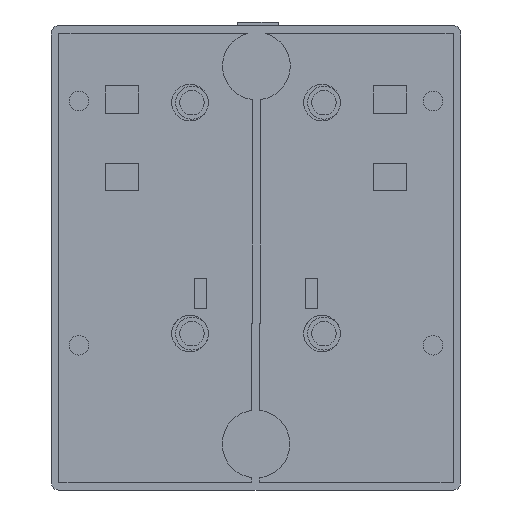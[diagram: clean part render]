
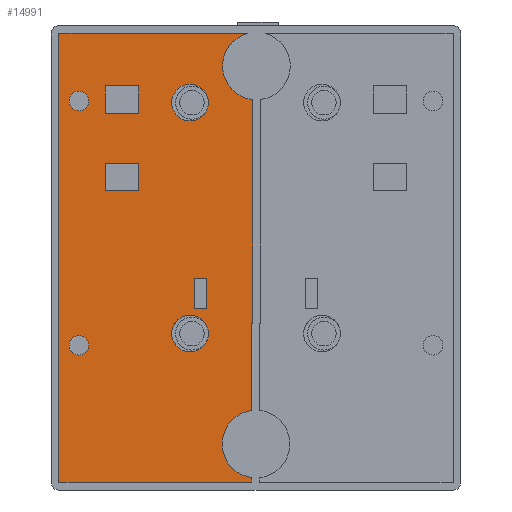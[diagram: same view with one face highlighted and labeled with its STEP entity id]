
A CAD part, front view. The second image highlights one B-rep face of the part: STEP entity #14991.
In plain terms, the highlighted planar face has unit normal (0, -1, 0).
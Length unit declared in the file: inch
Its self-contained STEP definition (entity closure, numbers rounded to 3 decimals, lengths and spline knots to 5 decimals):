
#769=FACE_BOUND('',#2130,.T.);
#770=FACE_BOUND('',#2131,.T.);
#771=FACE_BOUND('',#2132,.T.);
#772=FACE_BOUND('',#2133,.T.);
#773=FACE_BOUND('',#2134,.T.);
#774=FACE_BOUND('',#2135,.T.);
#775=FACE_BOUND('',#2136,.T.);
#863=CIRCLE('',#16020,0.15);
#865=CIRCLE('',#16023,0.15);
#867=CIRCLE('',#16025,0.15);
#868=CIRCLE('',#16027,0.277);
#869=CIRCLE('',#16028,0.277);
#870=CIRCLE('',#16029,0.08);
#871=CIRCLE('',#16030,0.08);
#1288=FACE_OUTER_BOUND('',#2129,.T.);
#2129=EDGE_LOOP('',(#9951,#9952,#9953,#9954,#9955,#9956,#9957,#9958,#9959));
#2130=EDGE_LOOP('',(#9960));
#2131=EDGE_LOOP('',(#9961,#9962,#9963,#9964));
#2132=EDGE_LOOP('',(#9965,#9966,#9967,#9968));
#2133=EDGE_LOOP('',(#9969,#9970,#9971,#9972));
#2134=EDGE_LOOP('',(#9973));
#2135=EDGE_LOOP('',(#9974));
#2136=EDGE_LOOP('',(#9975,#9976));
#3067=LINE('',#20801,#4629);
#3068=LINE('',#20803,#4630);
#3069=LINE('',#20807,#4631);
#3070=LINE('',#20809,#4632);
#3071=LINE('',#20811,#4633);
#3072=LINE('',#20813,#4634);
#3073=LINE('',#20816,#4635);
#3074=LINE('',#20819,#4636);
#3075=LINE('',#20821,#4637);
#3076=LINE('',#20823,#4638);
#3077=LINE('',#20824,#4639);
#3078=LINE('',#20827,#4640);
#3079=LINE('',#20829,#4641);
#3080=LINE('',#20831,#4642);
#3081=LINE('',#20832,#4643);
#3082=LINE('',#20835,#4644);
#3083=LINE('',#20837,#4645);
#3084=LINE('',#20839,#4646);
#3085=LINE('',#20840,#4647);
#4629=VECTOR('',#17109,0.3937);
#4630=VECTOR('',#17110,0.3937);
#4631=VECTOR('',#17113,0.3937);
#4632=VECTOR('',#17114,0.3937);
#4633=VECTOR('',#17115,0.3937);
#4634=VECTOR('',#17116,0.3937);
#4635=VECTOR('',#17119,0.3937);
#4636=VECTOR('',#17120,0.3937);
#4637=VECTOR('',#17121,0.3937);
#4638=VECTOR('',#17122,0.3937);
#4639=VECTOR('',#17123,0.3937);
#4640=VECTOR('',#17124,0.3937);
#4641=VECTOR('',#17125,0.3937);
#4642=VECTOR('',#17126,0.3937);
#4643=VECTOR('',#17127,0.3937);
#4644=VECTOR('',#17128,0.3937);
#4645=VECTOR('',#17129,0.3937);
#4646=VECTOR('',#17130,0.3937);
#4647=VECTOR('',#17131,0.3937);
#6189=VERTEX_POINT('',#20785);
#6191=VERTEX_POINT('',#20791);
#6192=VERTEX_POINT('',#20792);
#6194=VERTEX_POINT('',#20799);
#6195=VERTEX_POINT('',#20800);
#6196=VERTEX_POINT('',#20802);
#6197=VERTEX_POINT('',#20804);
#6198=VERTEX_POINT('',#20806);
#6199=VERTEX_POINT('',#20808);
#6200=VERTEX_POINT('',#20810);
#6201=VERTEX_POINT('',#20812);
#6202=VERTEX_POINT('',#20814);
#6203=VERTEX_POINT('',#20817);
#6204=VERTEX_POINT('',#20818);
#6205=VERTEX_POINT('',#20820);
#6206=VERTEX_POINT('',#20822);
#6207=VERTEX_POINT('',#20825);
#6208=VERTEX_POINT('',#20826);
#6209=VERTEX_POINT('',#20828);
#6210=VERTEX_POINT('',#20830);
#6211=VERTEX_POINT('',#20833);
#6212=VERTEX_POINT('',#20834);
#6213=VERTEX_POINT('',#20836);
#6214=VERTEX_POINT('',#20838);
#6215=VERTEX_POINT('',#20841);
#6216=VERTEX_POINT('',#20843);
#7683=EDGE_CURVE('',#6189,#6189,#863,.T.);
#7686=EDGE_CURVE('',#6191,#6192,#865,.T.);
#7689=EDGE_CURVE('',#6192,#6191,#867,.T.);
#7690=EDGE_CURVE('',#6194,#6195,#3067,.T.);
#7691=EDGE_CURVE('',#6195,#6196,#3068,.T.);
#7692=EDGE_CURVE('',#6196,#6197,#868,.T.);
#7693=EDGE_CURVE('',#6198,#6197,#3069,.F.);
#7694=EDGE_CURVE('',#6199,#6198,#3070,.F.);
#7695=EDGE_CURVE('',#6200,#6199,#3071,.F.);
#7696=EDGE_CURVE('',#6200,#6201,#3072,.T.);
#7697=EDGE_CURVE('',#6201,#6202,#869,.T.);
#7698=EDGE_CURVE('',#6202,#6194,#3073,.T.);
#7699=EDGE_CURVE('',#6203,#6204,#3074,.T.);
#7700=EDGE_CURVE('',#6204,#6205,#3075,.T.);
#7701=EDGE_CURVE('',#6205,#6206,#3076,.T.);
#7702=EDGE_CURVE('',#6206,#6203,#3077,.T.);
#7703=EDGE_CURVE('',#6207,#6208,#3078,.T.);
#7704=EDGE_CURVE('',#6208,#6209,#3079,.T.);
#7705=EDGE_CURVE('',#6209,#6210,#3080,.T.);
#7706=EDGE_CURVE('',#6210,#6207,#3081,.T.);
#7707=EDGE_CURVE('',#6211,#6212,#3082,.T.);
#7708=EDGE_CURVE('',#6212,#6213,#3083,.T.);
#7709=EDGE_CURVE('',#6213,#6214,#3084,.T.);
#7710=EDGE_CURVE('',#6214,#6211,#3085,.T.);
#7711=EDGE_CURVE('',#6215,#6215,#870,.T.);
#7712=EDGE_CURVE('',#6216,#6216,#871,.T.);
#9951=ORIENTED_EDGE('',*,*,#7690,.T.);
#9952=ORIENTED_EDGE('',*,*,#7691,.T.);
#9953=ORIENTED_EDGE('',*,*,#7692,.T.);
#9954=ORIENTED_EDGE('',*,*,#7693,.F.);
#9955=ORIENTED_EDGE('',*,*,#7694,.F.);
#9956=ORIENTED_EDGE('',*,*,#7695,.F.);
#9957=ORIENTED_EDGE('',*,*,#7696,.T.);
#9958=ORIENTED_EDGE('',*,*,#7697,.T.);
#9959=ORIENTED_EDGE('',*,*,#7698,.T.);
#9960=ORIENTED_EDGE('',*,*,#7683,.T.);
#9961=ORIENTED_EDGE('',*,*,#7699,.T.);
#9962=ORIENTED_EDGE('',*,*,#7700,.T.);
#9963=ORIENTED_EDGE('',*,*,#7701,.T.);
#9964=ORIENTED_EDGE('',*,*,#7702,.T.);
#9965=ORIENTED_EDGE('',*,*,#7703,.T.);
#9966=ORIENTED_EDGE('',*,*,#7704,.T.);
#9967=ORIENTED_EDGE('',*,*,#7705,.T.);
#9968=ORIENTED_EDGE('',*,*,#7706,.T.);
#9969=ORIENTED_EDGE('',*,*,#7707,.T.);
#9970=ORIENTED_EDGE('',*,*,#7708,.T.);
#9971=ORIENTED_EDGE('',*,*,#7709,.T.);
#9972=ORIENTED_EDGE('',*,*,#7710,.T.);
#9973=ORIENTED_EDGE('',*,*,#7711,.T.);
#9974=ORIENTED_EDGE('',*,*,#7712,.T.);
#9975=ORIENTED_EDGE('',*,*,#7686,.F.);
#9976=ORIENTED_EDGE('',*,*,#7689,.F.);
#14457=PLANE('',#16026);
#14991=ADVANCED_FACE('',(#1288,#769,#770,#771,#772,#773,#774,#775),#14457,
 .F.);
#16020=AXIS2_PLACEMENT_3D('',#20786,#17093,#17094);
#16023=AXIS2_PLACEMENT_3D('',#20793,#17100,#17101);
#16025=AXIS2_PLACEMENT_3D('',#20797,#17105,#17106);
#16026=AXIS2_PLACEMENT_3D('',#20798,#17107,#17108);
#16027=AXIS2_PLACEMENT_3D('',#20805,#17111,#17112);
#16028=AXIS2_PLACEMENT_3D('',#20815,#17117,#17118);
#16029=AXIS2_PLACEMENT_3D('',#20842,#17132,#17133);
#16030=AXIS2_PLACEMENT_3D('',#20844,#17134,#17135);
#17093=DIRECTION('center_axis',(0.,1.,0.));
#17094=DIRECTION('ref_axis',(1.,0.,0.));
#17100=DIRECTION('center_axis',(0.,-1.,0.));
#17101=DIRECTION('ref_axis',(1.,0.,0.));
#17105=DIRECTION('center_axis',(0.,-1.,0.));
#17106=DIRECTION('ref_axis',(1.,0.,0.));
#17107=DIRECTION('center_axis',(0.,1.,0.));
#17108=DIRECTION('ref_axis',(0.,0.,1.));
#17109=DIRECTION('',(1.,0.,0.));
#17110=DIRECTION('',(0.,0.,1.));
#17111=DIRECTION('center_axis',(0.,1.,0.));
#17112=DIRECTION('ref_axis',(-1.,0.,0.));
#17113=DIRECTION('',(-1.,0.,0.));
#17114=DIRECTION('',(0.,0.,-1.));
#17115=DIRECTION('',(1.,0.,0.));
#17116=DIRECTION('',(0.,0.,1.));
#17117=DIRECTION('center_axis',(0.,1.,0.));
#17118=DIRECTION('ref_axis',(-1.,0.,0.));
#17119=DIRECTION('',(0.,0.,1.));
#17120=DIRECTION('',(0.,0.,-1.));
#17121=DIRECTION('',(-1.,0.,0.));
#17122=DIRECTION('',(0.,0.,1.));
#17123=DIRECTION('',(1.,0.,0.));
#17124=DIRECTION('',(0.,0.,1.));
#17125=DIRECTION('',(1.,0.,0.));
#17126=DIRECTION('',(0.,0.,-1.));
#17127=DIRECTION('',(-1.,0.,0.));
#17128=DIRECTION('',(1.,0.,0.));
#17129=DIRECTION('',(0.,0.,-1.));
#17130=DIRECTION('',(-1.,0.,0.));
#17131=DIRECTION('',(0.,0.,1.));
#17132=DIRECTION('center_axis',(0.,1.,0.));
#17133=DIRECTION('ref_axis',(1.,0.,0.));
#17134=DIRECTION('center_axis',(0.,1.,0.));
#17135=DIRECTION('ref_axis',(1.,0.,0.));
#20785=CARTESIAN_POINT('',(-0.69,0.1225,1.2705));
#20786=CARTESIAN_POINT('Origin',(-0.54,0.1225,1.2705));
#20791=CARTESIAN_POINT('',(-0.39162,0.1225,-0.5975));
#20792=CARTESIAN_POINT('',(-0.69,0.1225,-0.6195));
#20793=CARTESIAN_POINT('Origin',(-0.54,0.1225,-0.6195));
#20797=CARTESIAN_POINT('Origin',(-0.54,0.1225,-0.6195));
#20798=CARTESIAN_POINT('Origin',(0.,0.1225,0.));
#20799=CARTESIAN_POINT('',(-0.03425,0.1225,-0.535));
#20800=CARTESIAN_POINT('',(-0.02825,0.1225,-0.535));
#20801=CARTESIAN_POINT('',(-0.01413,0.1225,-0.535));
#20802=CARTESIAN_POINT('',(-0.02825,0.1225,1.29477));
#20803=CARTESIAN_POINT('',(-0.02825,0.1225,0.91875));
#20804=CARTESIAN_POINT('',(-0.06892,0.1225,1.8375));
#20805=CARTESIAN_POINT('Origin',(0.003,0.1225,1.57));
#20806=CARTESIAN_POINT('',(-1.6125,0.1225,1.8375));
#20807=CARTESIAN_POINT('',(-0.8375,0.1225,1.8375));
#20808=CARTESIAN_POINT('',(-1.6125,0.1225,-1.8375));
#20809=CARTESIAN_POINT('',(-1.6125,0.1225,-0.95));
#20810=CARTESIAN_POINT('',(-0.03425,0.1225,-1.8375));
#20811=CARTESIAN_POINT('',(0.8375,0.1225,-1.8375));
#20812=CARTESIAN_POINT('',(-0.03425,0.1225,-1.7985));
#20813=CARTESIAN_POINT('',(-0.03425,0.1225,-0.29875));
#20814=CARTESIAN_POINT('',(-0.03425,0.1225,-1.24875));
#20815=CARTESIAN_POINT('Origin',(0.,0.1225,-1.52362));
#20816=CARTESIAN_POINT('',(-0.03425,0.1225,-0.29875));
#20817=CARTESIAN_POINT('',(-0.9575,0.1225,1.4065));
#20818=CARTESIAN_POINT('',(-0.9575,0.1225,1.1845));
#20819=CARTESIAN_POINT('',(-0.9575,0.1225,0.70325));
#20820=CARTESIAN_POINT('',(-1.2325,0.1225,1.1845));
#20821=CARTESIAN_POINT('',(-0.47875,0.1225,1.1845));
#20822=CARTESIAN_POINT('',(-1.2325,0.1225,1.4065));
#20823=CARTESIAN_POINT('',(-1.2325,0.1225,0.59225));
#20824=CARTESIAN_POINT('',(-0.61625,0.1225,1.4065));
#20825=CARTESIAN_POINT('',(-0.504,0.1225,-0.4165));
#20826=CARTESIAN_POINT('',(-0.504,0.1225,-0.1665));
#20827=CARTESIAN_POINT('',(-0.504,0.1225,-0.20825));
#20828=CARTESIAN_POINT('',(-0.404,0.1225,-0.1665));
#20829=CARTESIAN_POINT('',(-0.252,0.1225,-0.1665));
#20830=CARTESIAN_POINT('',(-0.404,0.1225,-0.4165));
#20831=CARTESIAN_POINT('',(-0.404,0.1225,-0.08325));
#20832=CARTESIAN_POINT('',(-0.202,0.1225,-0.4165));
#20833=CARTESIAN_POINT('',(-1.2325,0.1225,0.7695));
#20834=CARTESIAN_POINT('',(-0.9575,0.1225,0.7695));
#20835=CARTESIAN_POINT('',(-0.61625,0.1225,0.7695));
#20836=CARTESIAN_POINT('',(-0.9575,0.1225,0.5475));
#20837=CARTESIAN_POINT('',(-0.9575,0.1225,0.38475));
#20838=CARTESIAN_POINT('',(-1.2325,0.1225,0.5475));
#20839=CARTESIAN_POINT('',(-0.47875,0.1225,0.5475));
#20840=CARTESIAN_POINT('',(-1.2325,0.1225,0.27375));
#20841=CARTESIAN_POINT('',(-1.53,0.1225,1.284));
#20842=CARTESIAN_POINT('Origin',(-1.45,0.1225,1.284));
#20843=CARTESIAN_POINT('',(-1.53,0.1225,-0.716));
#20844=CARTESIAN_POINT('Origin',(-1.45,0.1225,-0.716));
